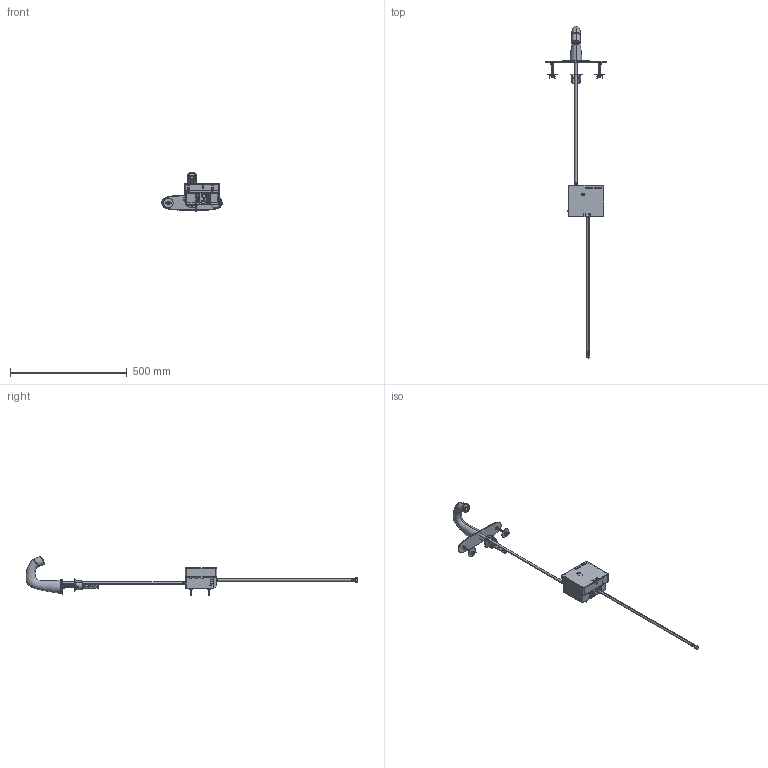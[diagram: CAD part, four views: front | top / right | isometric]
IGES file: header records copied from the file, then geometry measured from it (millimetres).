
Start section:  PTC IGES file: eq-a13a-11abcp_sw0001.igs
Global section: file name: eq-a13a-11abcp_sw0001.igs; native system: Creo Parametric by Parametric Technology Corporation; preprocessor: 2013050; author: jrodriguez; organization: Unknown; date: 20140919.140732; units: inch
Bounding box: 259.04 x 1424.53 x 168.04 mm (x, y, z)
Surface area: 429102.8 mm2 (no closed solid volume)
Topology: 0 solids, 0 shells, 1668 faces, 16567 edges, 23179 vertices
Faces by surface type: bspline 914, revolution 754
